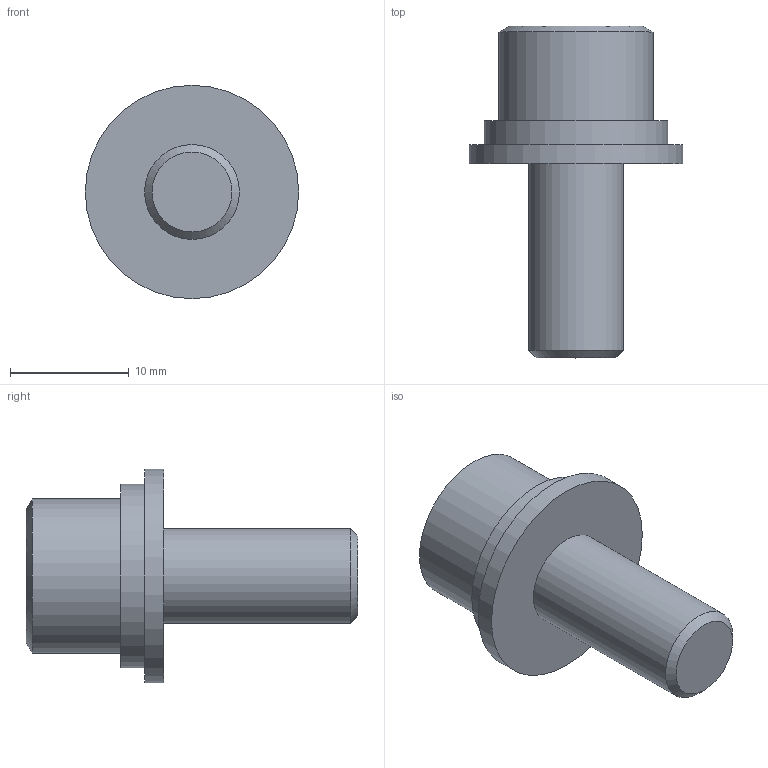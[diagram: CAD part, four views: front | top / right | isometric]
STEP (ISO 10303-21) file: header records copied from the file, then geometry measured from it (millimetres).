
FILE_DESCRIPTION((''),'2;1');
FILE_NAME('F:\CSW-08.stp','2013-12-02T15:28:06',('AMS8'),(''),'Autodesk Inventor 2008','Autodesk Inventor 2008','');
FILE_SCHEMA(('AUTOMOTIVE_DESIGN { 1 0 10303 214 1 1 1 1 }'));
Length unit declared in the file: millimetre
Products named in the file (1): CSW-08
Bounding box: 18 x 28 x 18 mm (x, y, z)
Surface area: 2033.3 mm2 (no closed solid volume)
Topology: 0 solids, 3 shells, 15 faces, 30 edges, 14 vertices
Faces by surface type: plane 7, cylinder 6, cone 2
Full cylindrical faces by diameter (mm): 7.999 x3, 13 x1, 15.499 x1, 17.999 x1
Entity records: 382 total; most frequent: DIRECTION 70, CARTESIAN_POINT 54, ORIENTED_EDGE 38, AXIS2_PLACEMENT_3D 30, EDGE_CURVE 24, EDGE_LOOP 23, FACE_OUTER_BOUND 15, ADVANCED_FACE 15
